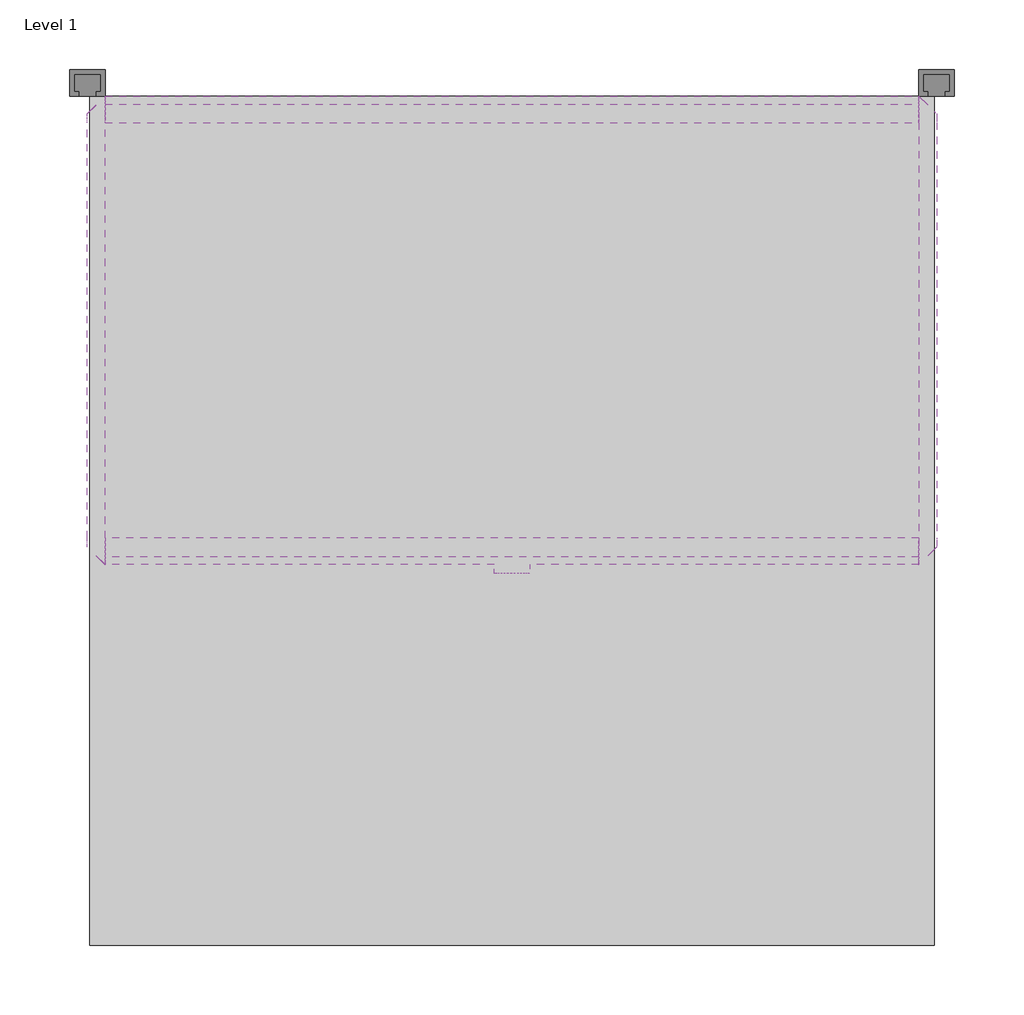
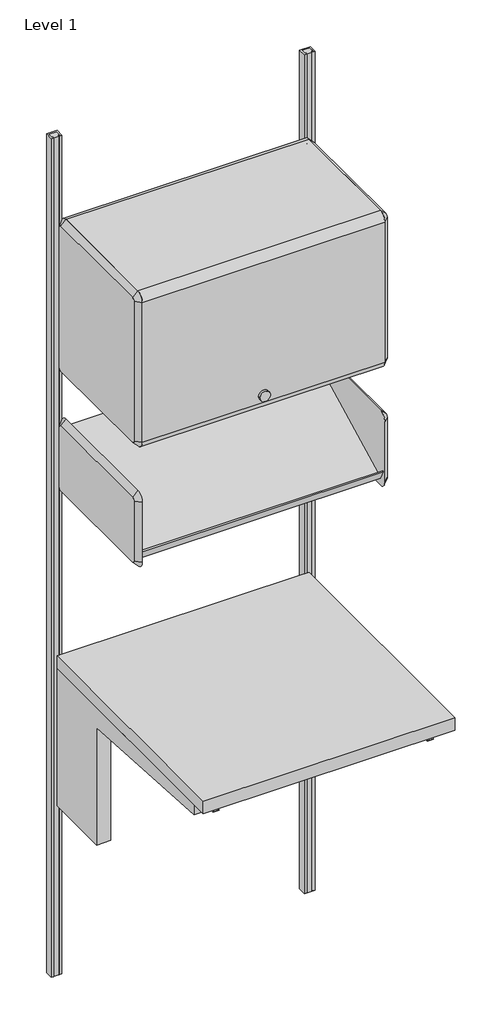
# One storey: 7 furniture elements.
"""IFC4 building model written with IfcOpenShell, lengths in millimetres."""

from ifc_helpers import new_model, si_unit, origin, place, context, project, spatial, transform, mapped, element, save
from components import furniture_7f08a233, furniture_03e73c74, furniture_224c88e3, furniture_82778d6f, furniture_fa600c10, furniture_ea425779

model = new_model("IFC4")

# Units and contexts
model_context = context("Model", 3, world=origin())
ifc_project = project(units=[si_unit("LENGTHUNIT", "METRE", prefix="MILLI")], contexts=[model_context])

# Site, building, storey
site = spatial("IfcSite", under=ifc_project)
building = spatial("IfcBuilding", under=site)
storey = spatial("IfcBuildingStorey", under=building, Name="Level 1", Elevation=0.0)

# Furniture
placement = place(None, origin())
furniture_shape = furniture_7f08a233(model_context)
element("IfcFurniture", 1, ObjectType="HermanMiller_CoStruc_C2141_Heavy-DutyWorkSurface : 24\"D x 24\"W Lam", at=placement, inside=storey, context=model_context, shape_type="MappedRepresentation", body=[
    mapped(furniture_shape, transform((304.8, -196.85, 0.0), x_axis=(1.0, 0.0, 0.0), y_axis=(0.0, 1.0, 0.0), z_axis=(0.0, 0.0, 1.0))),
])
furniture_2_shape = furniture_03e73c74(model_context)
element("IfcFurniture", 2, ObjectType="HermanMiller_ActionOffice_A3220_B-StyleStorageDisplay : Display 13\"D x 24\"W", at=placement, inside=storey, context=model_context, shape_type="MappedRepresentation", body=[
    mapped(furniture_2_shape, transform((428.7420045, -200.025, 0.0), x_axis=(1.0, 0.0, 0.0), y_axis=(0.0, 1.0, 0.0), z_axis=(0.0, 0.0, 1.0))),
])
furniture_3_shape = furniture_224c88e3(model_context)
element("IfcFurniture", 3, ObjectType="HermanMiller_CoStruc_C2140R_WorkSurfaceSupport_ComponentAdaptorReady : 14H x 24D x 24W", at=placement, inside=storey, context=model_context, shape_type="MappedRepresentation", body=[
    mapped(furniture_3_shape, transform((304.8, -196.85, 0.0), x_axis=(1.0, 0.0, 0.0), y_axis=(0.0, 1.0, 0.0), z_axis=(0.0, 0.0, 1.0))),
])
furniture_4_shape = furniture_82778d6f(model_context)
element("IfcFurniture", 4, ObjectType="HermanMiller_ActionOffice_B-StyleFlipperDoor : Paint 15-1/2H x 13D x 24W", at=placement, inside=storey, context=model_context, shape_type="MappedRepresentation", body=[
    mapped(furniture_4_shape, transform((304.8, -200.025, 457.2), x_axis=(1.0, 0.0, 0.0), y_axis=(0.0, 1.0, 0.0), z_axis=(0.0, 0.0, 1.0))),
])
furniture_5_shape = furniture_fa600c10(model_context)
element("IfcFurniture", 5, ObjectType="HermanMiller_CoStruc_B-StyleShelf : 15-1/2H x 13D x 24W", at=placement, inside=storey, context=model_context, shape_type="MappedRepresentation", body=[
    mapped(furniture_5_shape, transform((428.7420045, -200.025, 457.2), x_axis=(1.0, 0.0, 0.0), y_axis=(0.0, 1.0, 0.0), z_axis=(0.0, 0.0, 1.0))),
])
furniture_6_shape = furniture_ea425779(model_context)
element("IfcFurniture", 6, ObjectType="HermanMiller_ActionOffice_AO213_WallStrip : 84\"H", at=placement, inside=storey, context=model_context, shape_type="MappedRepresentation", body=[
    mapped(furniture_6_shape, transform((609.6, 0.0, 0.0), x_axis=(1.0, 0.0, 0.0), y_axis=(0.0, 1.0, 0.0), z_axis=(0.0, 0.0, 1.0))),
])
element("IfcFurniture", 7, ObjectType="HermanMiller_ActionOffice_AO213_WallStrip : 84\"H", at=placement, inside=storey, context=model_context, shape_type="MappedRepresentation", body=[
    mapped(furniture_6_shape, transform((0.0, 0.0, 0.0), x_axis=(1.0, 0.0, 0.0), y_axis=(0.0, 1.0, 0.0), z_axis=(0.0, 0.0, 1.0))),
])

save(model, "model.ifc")
